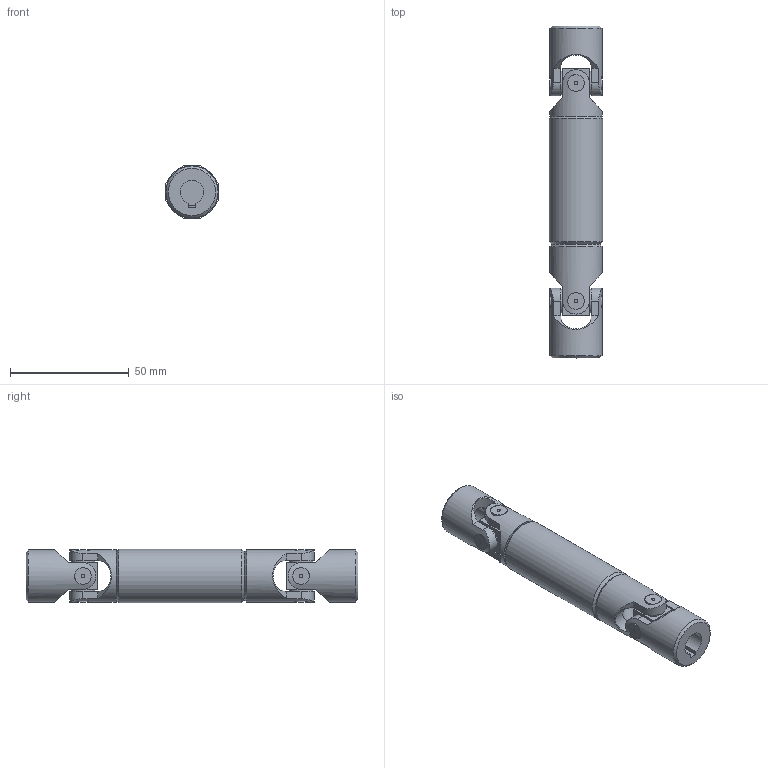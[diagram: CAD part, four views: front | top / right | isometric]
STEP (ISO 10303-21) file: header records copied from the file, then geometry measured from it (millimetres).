
FILE_DESCRIPTION(/* description */ (''),/* implementation_level */ '2;1');
FILE_NAME(/* name */ '\\SRV2016\societa\Stefano\Disegni 3D\00Catalogo 3D\03Trasmissioni standard GA\!03GA10\!03GA10_SG0A1010.stp',/* time_stamp */ '2022-02-15T10:34:42+01:00',/* author */ ('acquisti'),/* organization */ (''),/* preprocessor_version */ 'ST-DEVELOPER v15.6',/* originating_system */ 'Autodesk Inventor 2015',/* authorisation */ '');
FILE_SCHEMA (('AUTOMOTIVE_DESIGN { 1 0 10303 214 3 1 1 }'));
Length unit declared in the file: millimetre
Products named in the file (5): !03GA10 LCI; !03GA10 LAI; 03G SFE; 03G MOC; !03GA10_SG0A1010
Assembly tree (6 placements, depth 2):
  !03GA10_SG0A1010
    !03GA10 LCI
    !03GA10 LAI
    03G SFE  x2
    03G MOC  x2
Bounding box: 22.5 x 140 x 22.5 mm (x, y, z)
Volume: 41340 mm3; surface area: 20854.1 mm2
Topology: 6 solids, 6 shells, 212 faces, 517 edges, 341 vertices
Faces by surface type: plane 106, cylinder 77, cone 25, torus 4
Full cylindrical faces by diameter (mm): 1.5 x8, 10 x9, 11.5 x2, 18 x1, 22 x4, 22.5 x1
Entity records: 5393 total; most frequent: CARTESIAN_POINT 1571, DIRECTION 775, ORIENTED_EDGE 748, EDGE_CURVE 374, AXIS2_PLACEMENT_3D 311, VERTEX_POINT 262, EDGE_LOOP 212, FACE_OUTER_BOUND 164
